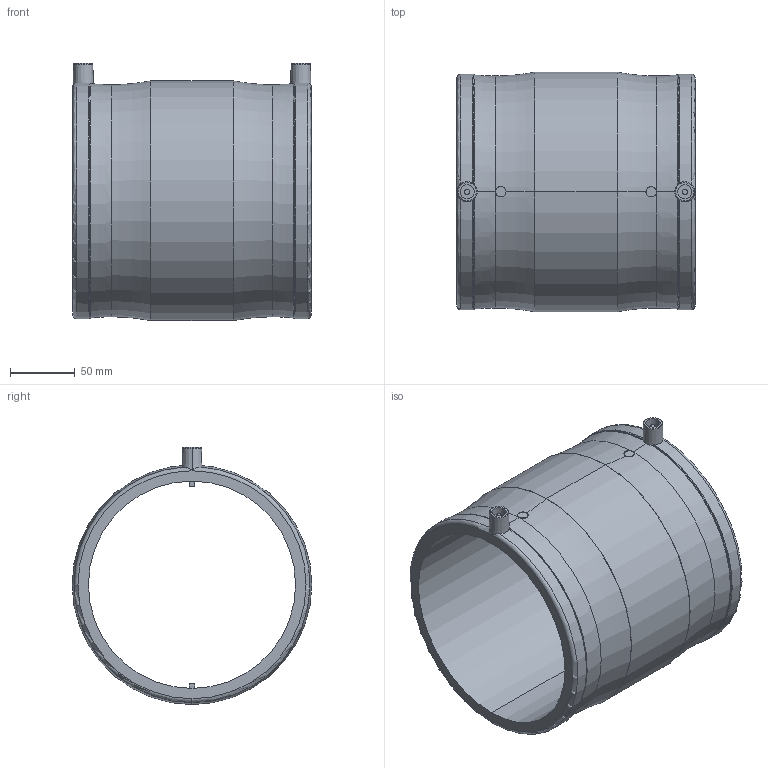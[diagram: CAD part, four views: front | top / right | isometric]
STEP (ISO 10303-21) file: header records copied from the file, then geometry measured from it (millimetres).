
FILE_DESCRIPTION (( 'STEP AP214' ), '1' );
FILE_NAME ('KP_2-160.STEP', '2023-04-04T08:56:04', ( '' ), ( '' ), 'SwSTEP 2.0', 'SolidWorks 2022', '' );
FILE_SCHEMA (( 'AUTOMOTIVE_DESIGN' ));
Length unit declared in the file: millimetre
Products named in the file (1): KP_2-160
Bounding box: 184 x 185 x 198.5 mm (x, y, z)
Volume: 1107803.4 mm3; surface area: 211452.2 mm2
Topology: 1 solids, 1 shells, 72 faces, 174 edges, 108 vertices
Faces by surface type: torus 26, cylinder 22, plane 20, cone 4
Entity records: 2452 total; most frequent: CARTESIAN_POINT 687, DIRECTION 400, ORIENTED_EDGE 348, AXIS2_PLACEMENT_3D 177, EDGE_CURVE 174, VERTEX_POINT 108, CIRCLE 104, EDGE_LOOP 78
